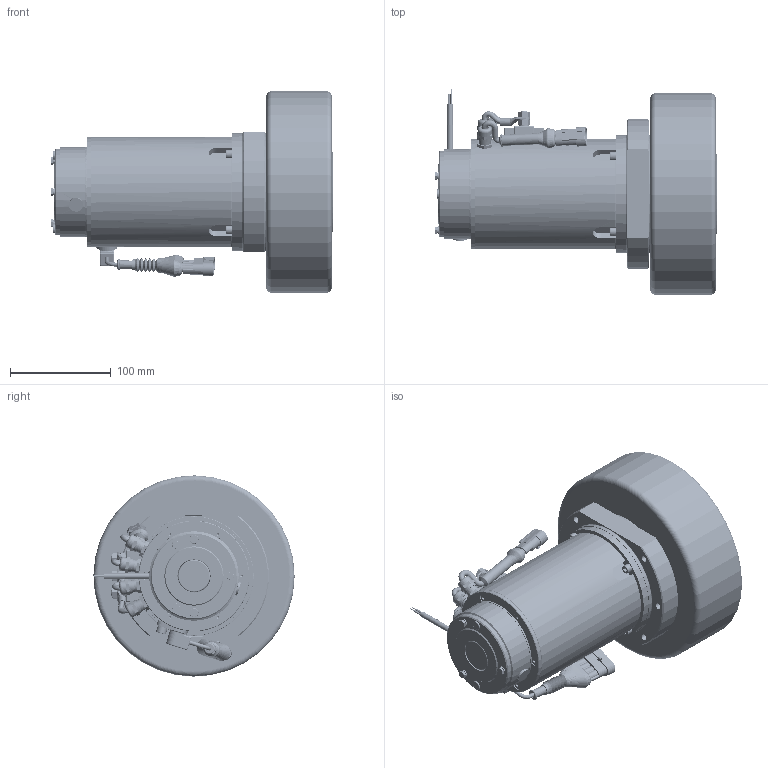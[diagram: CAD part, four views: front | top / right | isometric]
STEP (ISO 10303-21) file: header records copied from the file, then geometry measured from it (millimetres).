
FILE_DESCRIPTION(/* description */ (''),/* implementation_level */ '2;1');
FILE_NAME(/* name */ 'Z:\SITO WEB 2023\Dual Drive\MRH116\MRH116 AC D.200 mm\MRH116.AC090.D200.stp',/* time_stamp */ '2023-09-21T12:19:34+02:00',/* author */ ('cad3'),/* organization */ (''),/* preprocessor_version */ 'ST-DEVELOPER v18.1',/* originating_system */ 'Autodesk Inventor 2022',/* authorisation */ '');
FILE_SCHEMA (('AUTOMOTIVE_DESIGN { 1 0 10303 214 3 1 1 }'));
Products named in the file (1): MRH116.AC090.D200
Bounding box: 280.8 x 204 x 199.99 mm (x, y, z)
Volume: 2792851.3 mm3; surface area: 459651 mm2
Topology: 6 solids, 47 shells, 7793 faces, 21903 edges, 13774 vertices
Faces by surface type: plane 6140, cylinder 947, cone 444, bspline 160, torus 97, sphere 5
Full cylindrical faces by diameter (mm): 0.75 x2, 2 x2, 3.242 x12, 3.5 x2, 4 x23, 4.134 x6, 4.2 x11, 4.3 x9, 4.5 x12, 4.917 x10, 5 x14, 5.2 x10, 5.3 x4, 5.4 x3, 5.5 x5, 5.88 x3, 5.917 x3, 6 x22, 6.2 x7, 6.4 x6, 6.5 x20, 6.647 x6, 7 x12, 7.5 x10, 7.64 x6, 8 x17, 8.4 x1, 8.5 x18, 8.88 x3, 9 x5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
Entity records: 265532 total; most frequent: CARTESIAN_POINT 54544, ORIENTED_EDGE 43654, DIRECTION 42330, EDGE_CURVE 21827, AXIS2_PLACEMENT_3D 14226, LINE 13878, VECTOR 13878, VERTEX_POINT 13773
